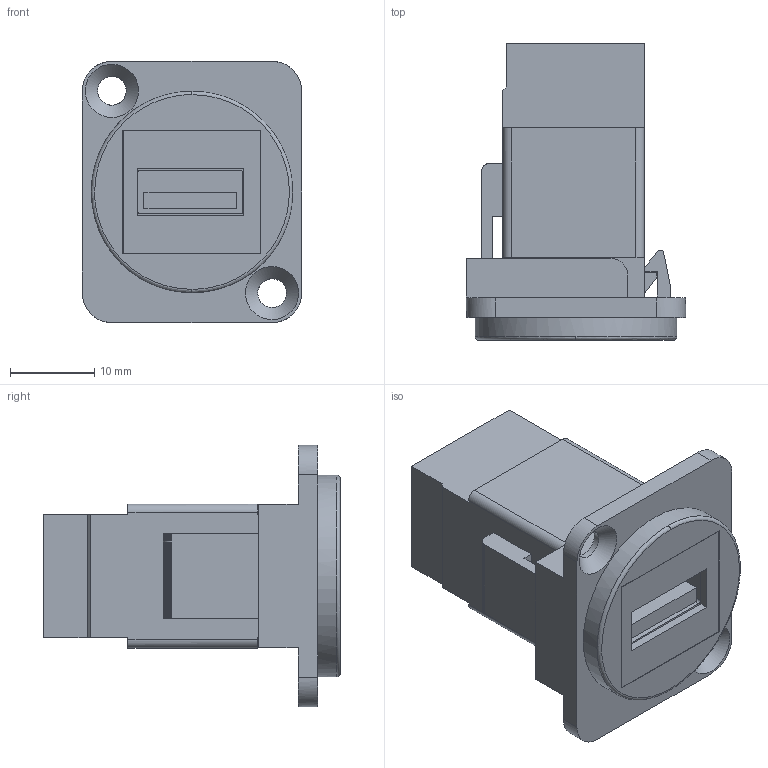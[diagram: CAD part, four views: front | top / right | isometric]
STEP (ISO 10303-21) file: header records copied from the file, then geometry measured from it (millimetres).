
FILE_DESCRIPTION(('FreeCAD Model'),'2;1');
FILE_NAME('Open CASCADE Shape Model','2026-05-14T09:18:19',(''),(''), 'Open CASCADE STEP processor 7.8','FreeCAD','Unknown');
FILE_SCHEMA(('AUTOMOTIVE_DESIGN { 1 0 10303 214 1 1 1 1 }'));
Length unit declared in the file: millimetre
Products named in the file (3): PMNST_USBA_BK; 3013BUSXLRBK; 210USB06N2xx
Assembly tree (2 placements, depth 2):
  PMNST_USBA_BK
    3013BUSXLRBK
    210USB06N2xx
Bounding box: 26 x 35.2 x 31 mm (x, y, z)
Volume: 10605.5 mm3; surface area: 6990.5 mm2
Topology: 2 solids, 2 shells, 146 faces, 402 edges, 268 vertices
Faces by surface type: bspline 146
Entity records: 6894 total; most frequent: CARTESIAN_POINT 4359, ORIENTED_EDGE 804, EDGE_CURVE 402, B_SPLINE_CURVE_WITH_KNOTS 402, VERTEX_POINT 268, FACE_BOUND 160, EDGE_LOOP 160, ADVANCED_FACE 146
